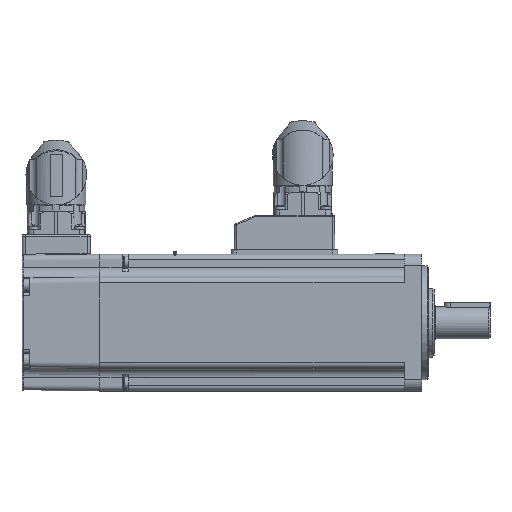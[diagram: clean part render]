
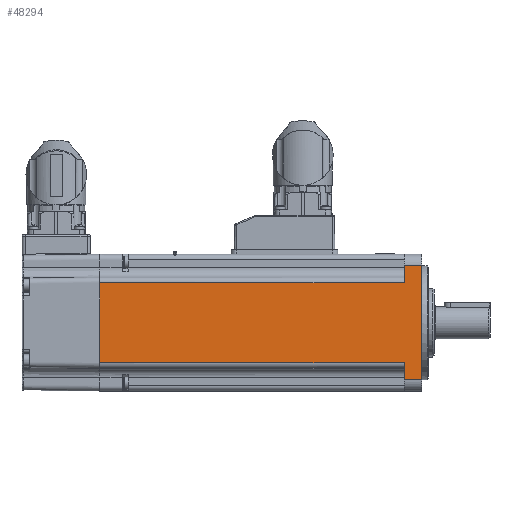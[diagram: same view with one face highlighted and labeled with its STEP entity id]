
A CAD part, left-side view. The second image highlights one B-rep face of the part: STEP entity #48294.
In plain terms, the highlighted planar face has unit normal (-1, 0, 0).
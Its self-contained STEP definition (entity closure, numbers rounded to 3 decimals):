
#1819=LINE('',#72570,#5200);
#1846=LINE('',#72658,#5227);
#1847=LINE('',#72662,#5228);
#1848=LINE('',#72665,#5229);
#1849=LINE('',#72667,#5230);
#1850=LINE('',#72669,#5231);
#1851=LINE('',#72671,#5232);
#1852=LINE('',#72672,#5233);
#5200=VECTOR('',#57652,1000.);
#5227=VECTOR('',#57719,1000.);
#5228=VECTOR('',#57724,1000.);
#5229=VECTOR('',#57725,1000.);
#5230=VECTOR('',#57726,1000.);
#5231=VECTOR('',#57727,1000.);
#5232=VECTOR('',#57728,1000.);
#5233=VECTOR('',#57729,1000.);
#8874=PLANE('',#51749);
#11756=ORIENTED_EDGE('',*,*,#25557,.T.);
#11757=ORIENTED_EDGE('',*,*,#25558,.F.);
#11758=ORIENTED_EDGE('',*,*,#25559,.T.);
#11759=ORIENTED_EDGE('',*,*,#25560,.F.);
#11760=ORIENTED_EDGE('',*,*,#25561,.T.);
#11761=ORIENTED_EDGE('',*,*,#25511,.T.);
#11762=ORIENTED_EDGE('',*,*,#25555,.T.);
#11763=ORIENTED_EDGE('',*,*,#25562,.F.);
#25511=EDGE_CURVE('',#39207,#39206,#1819,.T.);
#25555=EDGE_CURVE('',#39206,#39248,#1846,.F.);
#25557=EDGE_CURVE('',#39249,#39250,#1847,.T.);
#25558=EDGE_CURVE('',#39251,#39250,#1848,.T.);
#25559=EDGE_CURVE('',#39251,#39252,#1849,.T.);
#25560=EDGE_CURVE('',#39253,#39252,#1850,.T.);
#25561=EDGE_CURVE('',#39253,#39207,#1851,.T.);
#25562=EDGE_CURVE('',#39249,#39248,#1852,.T.);
#34894=EDGE_LOOP('',(#11756,#11757,#11758,#11759,#11760,#11761,#11762,#11763));
#39206=VERTEX_POINT('',#72569);
#39207=VERTEX_POINT('',#72571);
#39248=VERTEX_POINT('',#72659);
#39249=VERTEX_POINT('',#72663);
#39250=VERTEX_POINT('',#72664);
#39251=VERTEX_POINT('',#72666);
#39252=VERTEX_POINT('',#72668);
#39253=VERTEX_POINT('',#72670);
#44152=FACE_BOUND('',#34894,.T.);
#48294=ADVANCED_FACE('',(#44152),#8874,.T.);
#51749=AXIS2_PLACEMENT_3D('',#72661,#57722,#57723);
#57652=DIRECTION('',(0.,0.,1.));
#57719=DIRECTION('',(0.,-1.,0.));
#57722=DIRECTION('',(-1.,0.,0.));
#57723=DIRECTION('',(0.,0.,1.));
#57724=DIRECTION('',(0.,1.,0.));
#57725=DIRECTION('',(0.,0.,1.));
#57726=DIRECTION('',(0.,-1.,0.));
#57727=DIRECTION('',(0.,0.,1.));
#57728=DIRECTION('',(0.,-1.,0.));
#57729=DIRECTION('',(0.,0.,1.));
#72569=CARTESIAN_POINT('',(-30.,-24.3,25.));
#72570=CARTESIAN_POINT('',(-30.,-24.3,30.));
#72571=CARTESIAN_POINT('',(-30.,-24.3,-25.));
#72658=CARTESIAN_POINT('',(-30.,145.145,25.));
#72659=CARTESIAN_POINT('',(-30.,-16.7,25.));
#72661=CARTESIAN_POINT('',(-30.,145.145,30.));
#72662=CARTESIAN_POINT('',(-30.,145.145,17.5));
#72663=CARTESIAN_POINT('',(-30.,-16.7,17.5));
#72664=CARTESIAN_POINT('',(-30.,116.7,17.5));
#72665=CARTESIAN_POINT('',(-30.,116.7,-30.));
#72666=CARTESIAN_POINT('',(-30.,116.7,-17.5));
#72667=CARTESIAN_POINT('',(-30.,145.145,-17.5));
#72668=CARTESIAN_POINT('',(-30.,-16.7,-17.5));
#72669=CARTESIAN_POINT('',(-30.,-16.7,30.));
#72670=CARTESIAN_POINT('',(-30.,-16.7,-25.));
#72671=CARTESIAN_POINT('',(-30.,145.145,-25.));
#72672=CARTESIAN_POINT('',(-30.,-16.7,30.));
